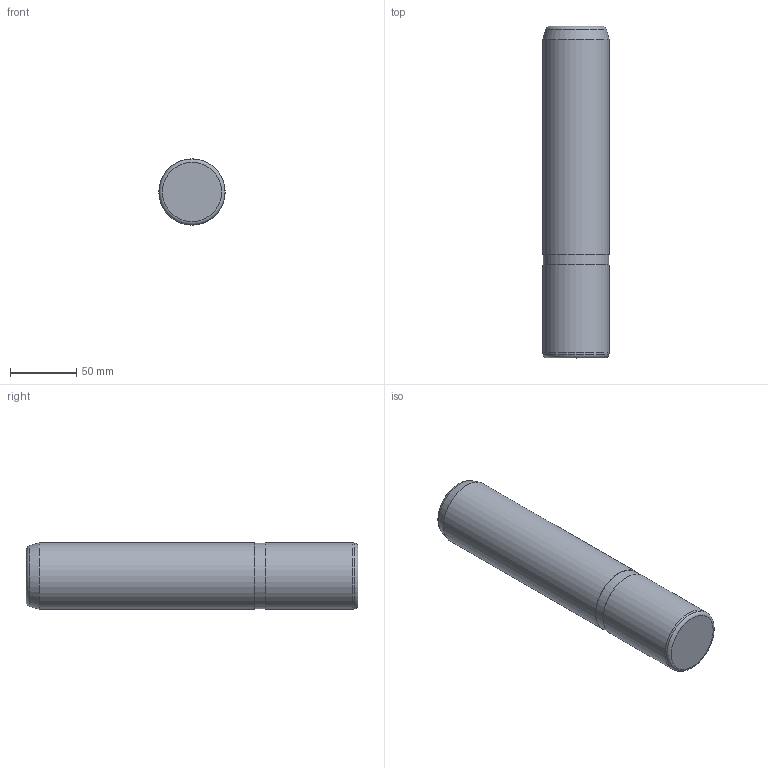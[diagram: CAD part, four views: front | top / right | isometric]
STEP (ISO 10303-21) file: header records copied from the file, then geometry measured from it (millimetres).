
FILE_DESCRIPTION( ( 'STEP AP203' ), '1' );
FILE_NAME( 'D:/Cuma/26 04 2010/D15/D15_50250.step', '2003-02-25T14:57:09', ( ' ' ), ( ' ' ), 'XStep 1.0', ' ', ' ' );
FILE_SCHEMA( ( 'CONFIG_CONTROL_DESIGN' ) );
Length unit declared in the file: metre
Products named in the file (1): 1
Bounding box: 50 x 250 x 50 mm (x, y, z)
Volume: 488009.1 mm3; surface area: 42507 mm2
Topology: 1 solids, 1 shells, 11 faces, 17 edges, 10 vertices
Faces by surface type: plane 4, cylinder 3, torus 2, cone 2
Full cylindrical faces by diameter (mm): 49.5 x1, 50 x2
Entity records: 259 total; most frequent: DIRECTION 44, CARTESIAN_POINT 32, AXIS2_PLACEMENT_3D 22, EDGE_LOOP 20, ORIENTED_EDGE 20, FACE_OUTER_BOUND 16, ADVANCED_FACE 11, EDGE_CURVE 10
